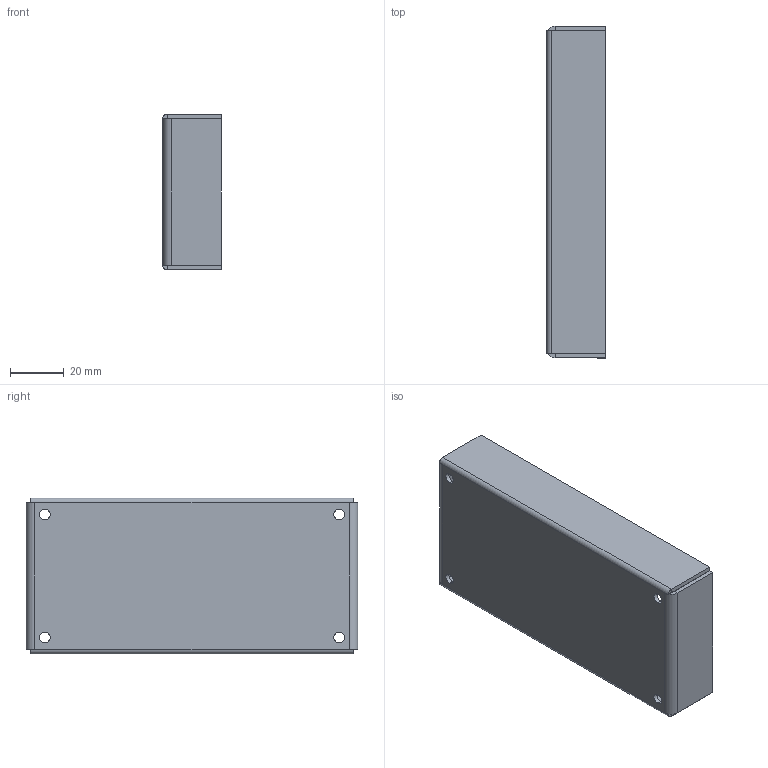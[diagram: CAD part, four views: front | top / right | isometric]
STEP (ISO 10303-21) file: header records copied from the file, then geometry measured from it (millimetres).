
FILE_DESCRIPTION (( 'STEP AP203' ), '1' );
FILE_NAME ('EDU-84B-2.STEP', '2014-01-22T06:31:15', ( 'SDS' ), ( 'SDS' ), 'SwSTEP 2.0', 'SolidWorks 2002296', '' );
FILE_SCHEMA (( 'CONFIG_CONTROL_DESIGN' ));
Length unit declared in the file: millimetre
Products named in the file (1): EDU-84B-2
Bounding box: 22 x 124 x 58.2 mm (x, y, z)
Volume: 22582.3 mm3; surface area: 29145.1 mm2
Topology: 1 solids, 1 shells, 50 faces, 116 edges, 68 vertices
Faces by surface type: plane 34, cylinder 16
Entity records: 1485 total; most frequent: DIRECTION 254, CARTESIAN_POINT 235, ORIENTED_EDGE 232, EDGE_CURVE 116, AXIS2_PLACEMENT_3D 87, LINE 80, VECTOR 80, VERTEX_POINT 68
